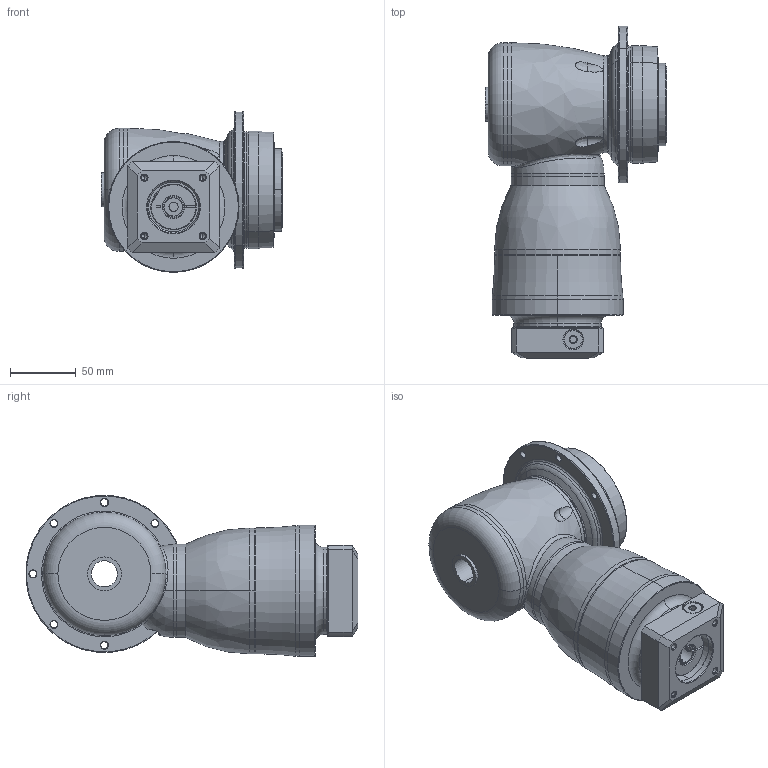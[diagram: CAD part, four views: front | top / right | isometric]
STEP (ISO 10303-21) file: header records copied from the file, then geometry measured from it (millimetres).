
FILE_DESCRIPTION((''),'2;1');
FILE_NAME('KH090_2ST_14-P0409300101_ASM','2016-06-16T',('d01943'),(''),'PRO/ENGINEER BY PARAMETRIC TECHNOLOGY CORPORATION, 2008410','PRO/ENGINEER BY PARAMETRIC TECHNOLOGY CORPORATION, 2008410','');
FILE_SCHEMA(('CONFIG_CONTROL_DESIGN'));
Length unit declared in the file: millimetre
Products named in the file (11): P1008300002_AF16; P1816300001_AF16; P1817300001_AF16; P1315300001_AF16; P1007300001; P1317300201; P0409300101; P0503300005; P0912202001; 21711410012; KH090_2ST_14-P0409300101_ASM
Assembly tree (10 placements, depth 2):
  KH090_2ST_14-P0409300101_ASM
    P1008300002_AF16
    P1816300001_AF16
    P1817300001_AF16
    P1315300001_AF16
    P1007300001
    P1317300201
    P0409300101
    P0503300005
    P0912202001
    21711410012
Bounding box: 138.8 x 253.27 x 122.77 mm (x, y, z)
Volume: 1613271.6 mm3; surface area: 222048.3 mm2
Topology: 11 solids, 11 shells, 526 faces, 1189 edges, 700 vertices
Faces by surface type: cylinder 187, cone 142, plane 93, torus 66, bspline 36, sphere 2
Entity records: 21252 total; most frequent: CARTESIAN_POINT 9342, DIRECTION 2648, ORIENTED_EDGE 2288, EDGE_CURVE 1144, AXIS2_PLACEMENT_3D 1129, VERTEX_POINT 693, CIRCLE 618, EDGE_LOOP 615
